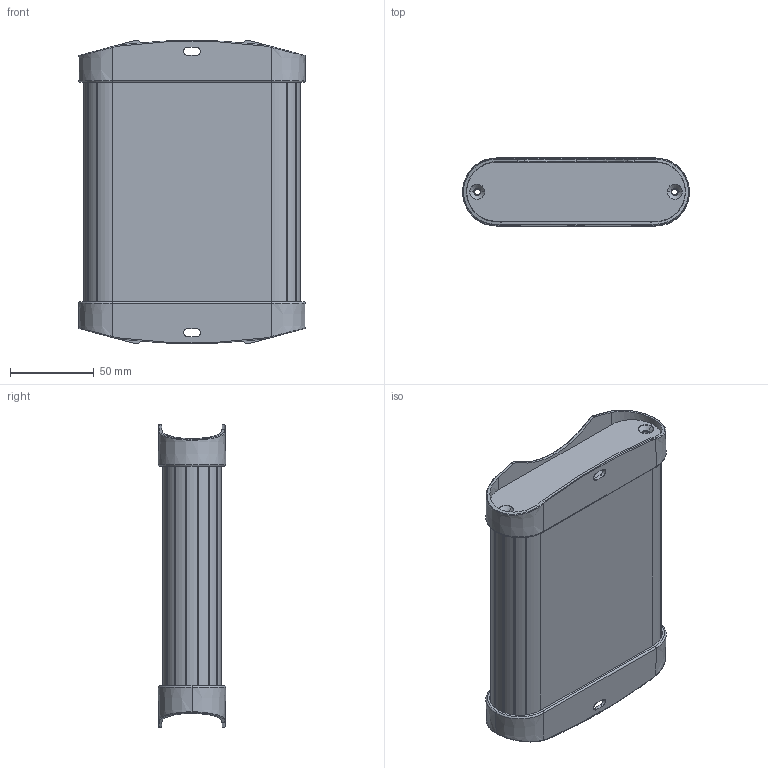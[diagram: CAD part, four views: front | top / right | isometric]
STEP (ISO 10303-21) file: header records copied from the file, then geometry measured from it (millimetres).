
FILE_DESCRIPTION (( 'STEP AP203' ), '1' );
FILE_NAME ('AL-130-35-A.STEP', '2024-12-04T11:52:38', ( '' ), ( '' ), 'SwSTEP 2.0', 'SolidWorks 2021', '' );
FILE_SCHEMA (( 'CONFIG_CONTROL_DESIGN' ));
Length unit declared in the file: millimetre
Products named in the file (3): AL-130-30-10; AL-130-35-0; AL-130-35-A
Assembly tree (3 placements, depth 2):
  AL-130-35-A
    AL-130-35-0
    AL-130-30-10  x2
Bounding box: 135.46 x 40.46 x 180.87 mm (x, y, z)
Volume: 146555.5 mm3; surface area: 141961.4 mm2
Topology: 3 solids, 3 shells, 308 faces, 842 edges, 544 vertices
Faces by surface type: cylinder 164, plane 74, cone 40, bspline 24, torus 6
Entity records: 8561 total; most frequent: CARTESIAN_POINT 1925, DIRECTION 1405, ORIENTED_EDGE 1340, EDGE_CURVE 670, AXIS2_PLACEMENT_3D 542, VERTEX_POINT 438, LINE 321, VECTOR 321
